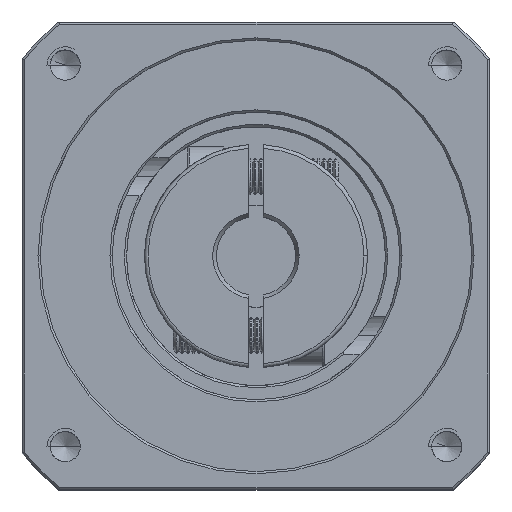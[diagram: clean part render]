
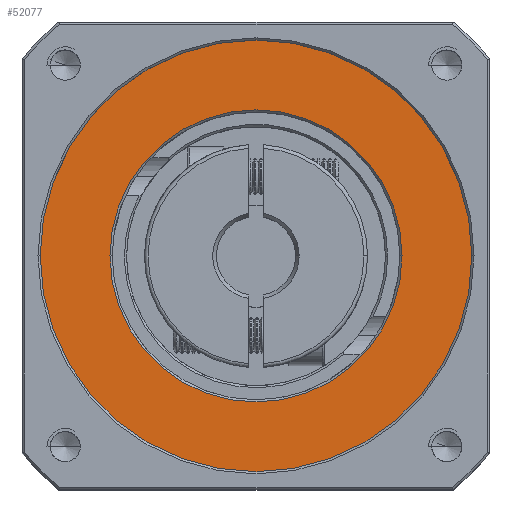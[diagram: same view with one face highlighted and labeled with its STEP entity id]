
A CAD part, top view. The second image highlights one B-rep face of the part: STEP entity #52077.
In plain terms, the highlighted planar face has unit normal (0, 0, 1).
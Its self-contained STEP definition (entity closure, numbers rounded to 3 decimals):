
#2366 = CARTESIAN_POINT ( 'NONE',  ( -70.41, 31.886, 11.125 ) ) ;
#4621 = VERTEX_POINT ( 'NONE', #8328 ) ;
#5456 = AXIS2_PLACEMENT_3D ( 'NONE', #53007, #5790, #60904 ) ;
#5790 = DIRECTION ( 'NONE',  ( 0., 0., -1. ) ) ;
#8328 = CARTESIAN_POINT ( 'NONE',  ( -100.41, 31.886, 11.125 ) ) ;
#10291 = DIRECTION ( 'NONE',  ( 1., 0., 0. ) ) ;
#11184 = EDGE_CURVE ( 'NONE', #38995, #56854, #46885, .T. ) ;
#13826 = DIRECTION ( 'NONE',  ( 0., 0., -1. ) ) ;
#14735 = AXIS2_PLACEMENT_3D ( 'NONE', #33687, #88661, #41611 ) ;
#17633 = CARTESIAN_POINT ( 'NONE',  ( -90.71, 31.886, 11.125 ) ) ;
#20437 = CIRCLE ( 'NONE', #80293, 20.3 ) ;
#24874 = AXIS2_PLACEMENT_3D ( 'NONE', #87039, #39955, #94822 ) ;
#33687 = CARTESIAN_POINT ( 'NONE',  ( -70.41, 31.886, 11.125 ) ) ;
#34759 = CIRCLE ( 'NONE', #24874, 30. ) ;
#38093 = FACE_OUTER_BOUND ( 'NONE', #62431, .T. ) ;
#38995 = VERTEX_POINT ( 'NONE', #66119 ) ;
#39955 = DIRECTION ( 'NONE',  ( 0., 0., 1. ) ) ;
#40093 = EDGE_CURVE ( 'NONE', #78015, #4621, #51210, .T. ) ;
#41611 = DIRECTION ( 'NONE',  ( 1., 0., 0. ) ) ;
#45716 = ORIENTED_EDGE ( 'NONE', *, *, #98886, .T. ) ;
#46266 = EDGE_LOOP ( 'NONE', ( #50240, #45716 ) ) ;
#46885 = CIRCLE ( 'NONE', #5456, 20.3 ) ;
#50240 = ORIENTED_EDGE ( 'NONE', *, *, #11184, .T. ) ;
#51210 = CIRCLE ( 'NONE', #14735, 30. ) ;
#52077 = ADVANCED_FACE ( 'NONE', ( #98197, #38093 ), #73050, .T. ) ;
#52800 = ORIENTED_EDGE ( 'NONE', *, *, #69190, .T. ) ;
#53007 = CARTESIAN_POINT ( 'NONE',  ( -70.41, 31.886, 11.125 ) ) ;
#56854 = VERTEX_POINT ( 'NONE', #17633 ) ;
#57457 = DIRECTION ( 'NONE',  ( 0., 0., 1. ) ) ;
#60904 = DIRECTION ( 'NONE',  ( 1., 0., 0. ) ) ;
#61059 = CARTESIAN_POINT ( 'NONE',  ( -70.41, 31.886, 11.125 ) ) ;
#62431 = EDGE_LOOP ( 'NONE', ( #69068, #52800 ) ) ;
#64910 = AXIS2_PLACEMENT_3D ( 'NONE', #2366, #57457, #10291 ) ;
#66119 = CARTESIAN_POINT ( 'NONE',  ( -50.11, 31.886, 11.125 ) ) ;
#69018 = DIRECTION ( 'NONE',  ( 1., 0., 0. ) ) ;
#69068 = ORIENTED_EDGE ( 'NONE', *, *, #40093, .T. ) ;
#69190 = EDGE_CURVE ( 'NONE', #4621, #78015, #34759, .T. ) ;
#73050 = PLANE ( 'NONE',  #64910 ) ;
#78015 = VERTEX_POINT ( 'NONE', #96257 ) ;
#80293 = AXIS2_PLACEMENT_3D ( 'NONE', #61059, #13826, #69018 ) ;
#87039 = CARTESIAN_POINT ( 'NONE',  ( -70.41, 31.886, 11.125 ) ) ;
#88661 = DIRECTION ( 'NONE',  ( 0., 0., 1. ) ) ;
#94822 = DIRECTION ( 'NONE',  ( 1., 0., 0. ) ) ;
#96257 = CARTESIAN_POINT ( 'NONE',  ( -40.41, 31.886, 11.125 ) ) ;
#98197 = FACE_BOUND ( 'NONE', #46266, .T. ) ;
#98886 = EDGE_CURVE ( 'NONE', #56854, #38995, #20437, .T. ) ;
